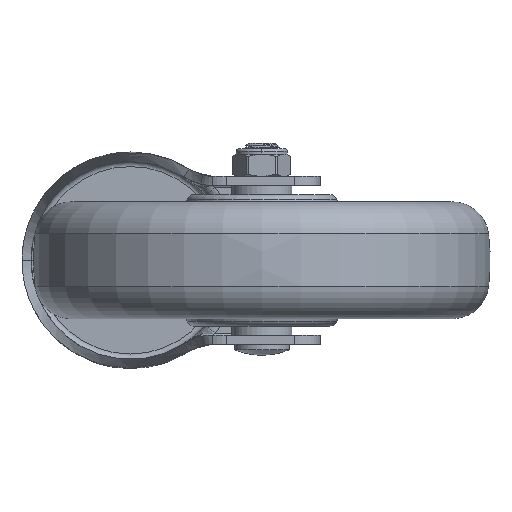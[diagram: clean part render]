
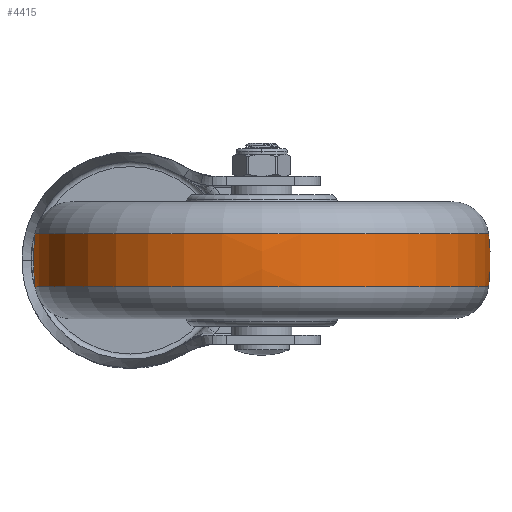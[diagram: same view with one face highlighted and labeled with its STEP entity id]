
A CAD part, front view. The second image highlights one B-rep face of the part: STEP entity #4415.
In plain terms, the highlighted free-form (B-spline) face has degree [3, 3] with [7, 4] control points.
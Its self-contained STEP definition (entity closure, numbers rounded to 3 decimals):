
#3807=CARTESIAN_POINT('',(-7.2,0.,0.));
#3808=DIRECTION('',(-1.,0.,0.));
#3809=DIRECTION('',(0.,1.,0.));
#3810=AXIS2_PLACEMENT_3D('',#3807,#3808,#3809);
#3822=CARTESIAN_POINT('',(0.,2.5,0.));
#3823=DIRECTION('',(0.,0.,1.));
#3824=DIRECTION('',(0.12,0.993,0.));
#3825=AXIS2_PLACEMENT_3D('',#3822,#3823,#3824);
#3827=CARTESIAN_POINT('',(0.,-2.5,0.));
#3828=DIRECTION('',(0.,0.,-1.));
#3829=DIRECTION('',(0.12,-0.993,0.));
#3830=AXIS2_PLACEMENT_3D('',#3827,#3828,#3829);
#3832=CARTESIAN_POINT('',(7.2,0.,0.));
#3833=DIRECTION('',(-1.,0.,0.));
#3834=DIRECTION('',(0.,1.,0.));
#3835=AXIS2_PLACEMENT_3D('',#3832,#3833,#3834);
#4056=CARTESIAN_POINT('',(-7.2,62.066,0.));
#4058=VERTEX_POINT('',#4056);
#4060=CARTESIAN_POINT('',(-7.2,-62.066,
0.));
#4062=VERTEX_POINT('',#4060);
#4089=CARTESIAN_POINT('',(7.2,62.066,0.));
#4091=VERTEX_POINT('',#4089);
#4093=CARTESIAN_POINT('',(7.2,-62.066,
0.));
#4095=VERTEX_POINT('',#4093);
#4379=CARTESIAN_POINT('',(-7.487,-61.909,
3.895));
#4380=CARTESIAN_POINT('',(-2.509,-62.533,
3.934));
#4381=CARTESIAN_POINT('',(2.509,-62.533,3.934));
#4382=CARTESIAN_POINT('',(7.487,-61.909,3.895));
#4383=CARTESIAN_POINT('',(-7.487,-64.306,
-34.204));
#4384=CARTESIAN_POINT('',(-2.509,-64.955,
-34.549));
#4385=CARTESIAN_POINT('',(2.509,-64.955,
-34.549));
#4386=CARTESIAN_POINT('',(7.487,-64.306,
-34.204));
#4387=CARTESIAN_POINT('',(-7.487,-38.174,
-62.031));
#4388=CARTESIAN_POINT('',(-2.509,-38.559,
-62.657));
#4389=CARTESIAN_POINT('',(2.509,-38.559,
-62.657));
#4390=CARTESIAN_POINT('',(7.487,-38.174,
-62.031));
#4391=CARTESIAN_POINT('',(-7.487,0.,
-62.031));
#4392=CARTESIAN_POINT('',(-2.509,0.,
-62.657));
#4393=CARTESIAN_POINT('',(2.509,0.,
-62.657));
#4394=CARTESIAN_POINT('',(7.487,0.,
-62.031));
#4395=CARTESIAN_POINT('',(-7.487,38.174,
-62.031));
#4396=CARTESIAN_POINT('',(-2.509,38.559,
-62.657));
#4397=CARTESIAN_POINT('',(2.509,38.559,-62.657));
#4398=CARTESIAN_POINT('',(7.487,38.174,-62.031));
#4399=CARTESIAN_POINT('',(-7.487,64.306,
-34.204));
#4400=CARTESIAN_POINT('',(-2.509,64.955,
-34.549));
#4401=CARTESIAN_POINT('',(2.509,64.955,-34.549));
#4402=CARTESIAN_POINT('',(7.487,64.306,-34.204));
#4403=CARTESIAN_POINT('',(-7.487,61.909,3.895));
#4404=CARTESIAN_POINT('',(-2.509,62.533,3.934));
#4405=CARTESIAN_POINT('',(2.509,62.533,3.934));
#4406=CARTESIAN_POINT('',(7.487,61.909,3.895));
#4407=(BOUNDED_SURFACE()B_SPLINE_SURFACE(3,3,((#4379,#4380,#4381,#4382),(#4383,
#4384,#4385,#4386),(#4387,#4388,#4389,#4390),(#4391,#4392,#4393,#4394),(#4395,
#4396,#4397,#4398),(#4399,#4400,#4401,#4402),(#4403,#4404,#4405,#4406)),
.UNSPECIFIED.,.F.,.F.,.F.)B_SPLINE_SURFACE_WITH_KNOTS((4,3,4),(4,4),(0.,1.,
2.),(0.,1.),.UNSPECIFIED.)GEOMETRIC_REPRESENTATION_ITEM()RATIONAL_B_SPLINE_SURFACE(((1.192,1.186,1.186,1.192),(
0.941,0.936,0.936,0.941),(
0.941,0.936,0.936,0.941),(
1.192,1.186,1.186,1.192),(
0.941,0.936,0.936,0.941),(
0.941,0.936,0.936,0.941),(
1.192,1.186,1.186,1.192)))REPRESENTATION_ITEM('')SURFACE());
#4408=ORIENTED_EDGE('',*,*,#4369,.T.);
#4409=ORIENTED_EDGE('',*,*,#4322,.T.);
#4410=ORIENTED_EDGE('',*,*,#4373,.F.);
#4412=ORIENTED_EDGE('',*,*,#4411,.F.);
#4413=EDGE_LOOP('',(#4408,#4409,#4410,#4412));
#4414=FACE_OUTER_BOUND('',#4413,.F.);
#3811=CIRCLE('',#3810,62.066);
#3826=CIRCLE('',#3825,60.);
#3831=CIRCLE('',#3830,60.);
#3836=CIRCLE('',#3835,62.066);
#4322=EDGE_CURVE('',#4058,#4062,#3811,.T.);
#4369=EDGE_CURVE('',#4091,#4058,#3826,.T.);
#4373=EDGE_CURVE('',#4095,#4062,#3831,.T.);
#4411=EDGE_CURVE('',#4091,#4095,#3836,.T.);
#4415=ADVANCED_FACE('',(#4414),#4407,.T.);
